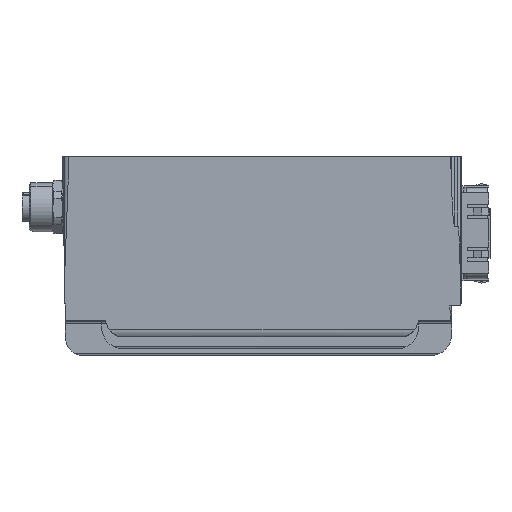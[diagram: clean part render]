
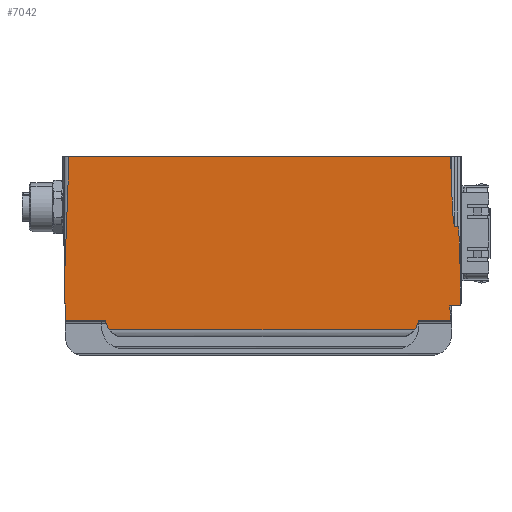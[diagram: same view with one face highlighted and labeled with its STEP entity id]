
A CAD part, left-side view. The second image highlights one B-rep face of the part: STEP entity #7042.
In plain terms, the highlighted planar face has unit normal (-1, 0, -0.017).
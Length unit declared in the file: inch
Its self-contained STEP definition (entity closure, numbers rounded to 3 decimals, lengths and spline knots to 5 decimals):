
#7042=ADVANCED_FACE('',(#17550),#17551,.F.);
#17550=FACE_OUTER_BOUND('',#32872,.T.);
#17551=PLANE('',#32873);
#32872=EDGE_LOOP('',(#51238,#51239,#51240,#51241,#51242,#51243,#51244,#51245,#51246,#51247,#51248,#51249,#51250,#51251,#51252,#51253,#51254));
#32873=AXIS2_PLACEMENT_3D('',#51255,#51256,#51257);
#51238=ORIENTED_EDGE('',*,*,#87640,.F.);
#51239=ORIENTED_EDGE('',*,*,#87641,.F.);
#51240=ORIENTED_EDGE('',*,*,#87642,.F.);
#51241=ORIENTED_EDGE('',*,*,#87643,.F.);
#51242=ORIENTED_EDGE('',*,*,#87644,.F.);
#51243=ORIENTED_EDGE('',*,*,#87645,.F.);
#51244=ORIENTED_EDGE('',*,*,#87646,.F.);
#51245=ORIENTED_EDGE('',*,*,#85961,.F.);
#51246=ORIENTED_EDGE('',*,*,#87647,.F.);
#51247=ORIENTED_EDGE('',*,*,#87648,.F.);
#51248=ORIENTED_EDGE('',*,*,#87649,.F.);
#51249=ORIENTED_EDGE('',*,*,#87650,.F.);
#51250=ORIENTED_EDGE('',*,*,#87651,.T.);
#51251=ORIENTED_EDGE('',*,*,#87652,.F.);
#51252=ORIENTED_EDGE('',*,*,#87653,.F.);
#51253=ORIENTED_EDGE('',*,*,#87654,.F.);
#51254=ORIENTED_EDGE('',*,*,#87655,.F.);
#51255=CARTESIAN_POINT('',(31.48286,17.61469,5.6979));
#51256=DIRECTION('',(1.,0.,0.017));
#51257=DIRECTION('',(0.,1.0,0.));
#85961=EDGE_CURVE('',#101856,#101858,#101859,.T.);
#87640=EDGE_CURVE('',#104813,#104814,#104815,.T.);
#87641=EDGE_CURVE('',#104816,#104813,#104817,.T.);
#87642=EDGE_CURVE('',#104818,#104816,#104819,.T.);
#87643=EDGE_CURVE('',#104820,#104818,#104821,.T.);
#87644=EDGE_CURVE('',#104822,#104820,#104823,.T.);
#87645=EDGE_CURVE('',#104824,#104822,#104825,.T.);
#87646=EDGE_CURVE('',#101858,#104824,#104826,.T.);
#87647=EDGE_CURVE('',#104827,#101856,#104828,.T.);
#87648=EDGE_CURVE('',#104829,#104827,#104830,.T.);
#87649=EDGE_CURVE('',#104831,#104829,#104832,.T.);
#87650=EDGE_CURVE('',#104833,#104831,#104834,.T.);
#87651=EDGE_CURVE('',#104833,#104835,#104836,.T.);
#87652=EDGE_CURVE('',#104837,#104835,#104838,.T.);
#87653=EDGE_CURVE('',#104839,#104837,#104840,.T.);
#87654=EDGE_CURVE('',#104841,#104839,#104842,.T.);
#87655=EDGE_CURVE('',#104814,#104841,#104843,.T.);
#101856=VERTEX_POINT('',#125260);
#101858=VERTEX_POINT('',#125263);
#101859=ELLIPSE('',#125264,2.29277,0.03937);
#104813=VERTEX_POINT('',#129404);
#104814=VERTEX_POINT('',#129405);
#104815=LINE('',#129406,#129407);
#104816=VERTEX_POINT('',#129408);
#104817=ELLIPSE('',#129409,0.23626,0.23622);
#104818=VERTEX_POINT('',#129410);
#104819=LINE('',#129411,#129412);
#104820=VERTEX_POINT('',#129413);
#104821=ELLIPSE('',#129414,4.58555,0.07874);
#104822=VERTEX_POINT('',#129415);
#104823=LINE('',#129416,#129417);
#104824=VERTEX_POINT('',#129418);
#104825=ELLIPSE('',#129419,0.03938,0.03937);
#104826=ELLIPSE('',#129420,0.03938,0.03937);
#104827=VERTEX_POINT('',#129421);
#104828=ELLIPSE('',#129422,2.29277,0.03937);
#104829=VERTEX_POINT('',#129423);
#104830=LINE('',#129424,#129425);
#104831=VERTEX_POINT('',#129426);
#104832=ELLIPSE('',#129427,4.58555,0.07874);
#104833=VERTEX_POINT('',#129428);
#104834=ELLIPSE('',#129429,4.58555,0.07874);
#104835=VERTEX_POINT('',#129430);
#104836=LINE('',#129431,#129432);
#104837=VERTEX_POINT('',#129433);
#104838=ELLIPSE('',#129434,4.58555,0.07874);
#104839=VERTEX_POINT('',#129435);
#104840=LINE('',#129436,#129437);
#104841=VERTEX_POINT('',#129438);
#104842=LINE('',#129439,#129440);
#104843=ELLIPSE('',#129441,0.23626,0.23622);
#125260=CARTESIAN_POINT('',(31.49211,15.49636,5.15904));
#125263=CARTESIAN_POINT('',(31.49544,15.49338,4.96487));
#125264=AXIS2_PLACEMENT_3D('',#156794,#156795,#156796);
#129404=CARTESIAN_POINT('',(31.50026,16.00564,4.68443));
#129405=CARTESIAN_POINT('',(31.50026,19.37346,4.68443));
#129406=CARTESIAN_POINT('',(31.50026,17.68955,4.68443));
#129407=VECTOR('',#158873,0.11811);
#129408=CARTESIAN_POINT('',(31.4984,15.95726,4.79252));
#129409=AXIS2_PLACEMENT_3D('',#158874,#158875,#158876);
#129410=CARTESIAN_POINT('',(31.4984,15.6106,4.79252));
#129411=CARTESIAN_POINT('',(31.4984,17.65212,4.79252));
#129412=VECTOR('',#158877,0.03937);
#129413=CARTESIAN_POINT('',(31.4957,15.61275,4.95));
#129414=AXIS2_PLACEMENT_3D('',#158878,#158879,#158880);
#129415=CARTESIAN_POINT('',(31.4957,15.52419,4.95));
#129416=CARTESIAN_POINT('',(31.4957,16.5831,4.95));
#129417=VECTOR('',#158881,0.03937);
#129418=CARTESIAN_POINT('',(31.4955,15.49636,4.96153));
#129419=AXIS2_PLACEMENT_3D('',#158882,#158883,#158884);
#129420=AXIS2_PLACEMENT_3D('',#158885,#158886,#158887);
#129421=CARTESIAN_POINT('',(31.48058,15.52419,5.83048));
#129422=AXIS2_PLACEMENT_3D('',#158888,#158889,#158890);
#129423=CARTESIAN_POINT('',(31.48058,15.56129,5.83048));
#129424=CARTESIAN_POINT('',(31.48058,16.5831,5.83048));
#129425=VECTOR('',#158891,0.03937);
#129426=CARTESIAN_POINT('',(31.47321,15.59456,6.25968));
#129427=AXIS2_PLACEMENT_3D('',#158892,#158893,#158894);
#129428=CARTESIAN_POINT('',(31.4673,15.60505,6.60355));
#129429=AXIS2_PLACEMENT_3D('',#158895,#158896,#158897);
#129430=CARTESIAN_POINT('',(31.4673,19.81553,6.60355));
#129431=CARTESIAN_POINT('',(31.4673,16.58882,6.60355));
#129432=VECTOR('',#158898,0.03937);
#129433=CARTESIAN_POINT('',(31.49036,19.87121,5.26068));
#129434=AXIS2_PLACEMENT_3D('',#158899,#158900,#158901);
#129435=CARTESIAN_POINT('',(31.4984,19.86317,4.79252));
#129436=CARTESIAN_POINT('',(31.48343,19.87814,5.66449));
#129437=VECTOR('',#158902,0.03937);
#129438=CARTESIAN_POINT('',(31.4984,19.42183,4.79252));
#129439=CARTESIAN_POINT('',(31.4984,17.65212,4.79252));
#129440=VECTOR('',#158903,0.03937);
#129441=AXIS2_PLACEMENT_3D('',#158904,#158905,#158906);
#156794=CARTESIAN_POINT('',(31.51995,15.52419,3.53804));
#156795=DIRECTION('',(1.,0.,0.017));
#156796=DIRECTION('',(-0.017,0.,1.));
#158873=DIRECTION('',(0.,1.0,0.0));
#158874=CARTESIAN_POINT('',(31.49773,16.19018,4.83189));
#158875=DIRECTION('',(1.,0.,0.017));
#158876=DIRECTION('',(0.017,0.,-1.));
#158877=DIRECTION('',(0.0,1.0,0.0));
#158878=CARTESIAN_POINT('',(31.54604,15.6733,2.01868));
#158879=DIRECTION('',(1.,0.,0.017));
#158880=DIRECTION('',(-0.017,0.,1.));
#158881=DIRECTION('',(0.0,1.0,0.0));
#158882=CARTESIAN_POINT('',(31.49502,15.52419,4.98937));
#158883=DIRECTION('',(1.,0.,0.017));
#158884=DIRECTION('',(0.017,0.,-1.));
#158885=CARTESIAN_POINT('',(31.49502,15.52419,4.98937));
#158886=DIRECTION('',(1.,0.,0.017));
#158887=DIRECTION('',(0.017,0.,-1.));
#158888=CARTESIAN_POINT('',(31.51995,15.52419,3.53804));
#158889=DIRECTION('',(1.,0.,0.017));
#158890=DIRECTION('',(-0.017,0.,1.));
#158891=DIRECTION('',(0.0,-1.0,0.0));
#158892=CARTESIAN_POINT('',(31.40184,15.56129,10.41535));
#158893=DIRECTION('',(-1.,0.,-0.017));
#158894=DIRECTION('',(0.017,0.,-1.));
#158895=CARTESIAN_POINT('',(31.40184,15.56129,10.41535));
#158896=DIRECTION('',(-1.,0.,-0.017));
#158897=DIRECTION('',(0.017,0.,-1.));
#158898=DIRECTION('',(0.0,1.0,0.0));
#158899=CARTESIAN_POINT('',(31.54604,19.81553,2.01868));
#158900=DIRECTION('',(1.,0.,0.017));
#158901=DIRECTION('',(-0.017,0.,1.));
#158902=DIRECTION('',(-0.017,0.017,1.));
#158903=DIRECTION('',(0.0,1.0,0.0));
#158904=CARTESIAN_POINT('',(31.49773,19.18892,4.83189));
#158905=DIRECTION('',(1.,0.,0.017));
#158906=DIRECTION('',(0.017,0.,-1.));
